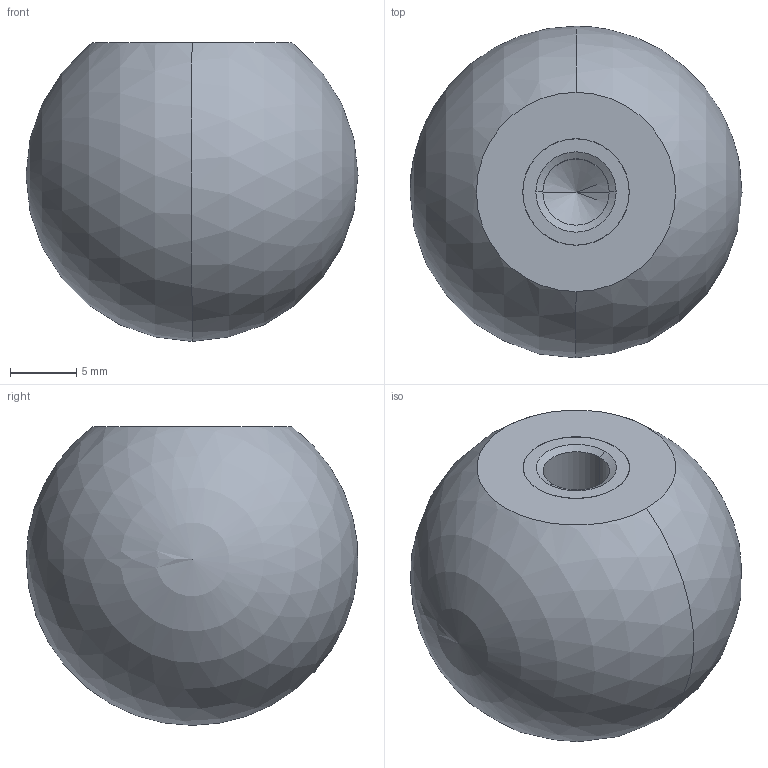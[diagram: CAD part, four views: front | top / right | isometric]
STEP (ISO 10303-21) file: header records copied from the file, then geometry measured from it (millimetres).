
FILE_DESCRIPTION (( 'STEP AP214' ), '1' );
FILE_NAME ('319-KU-25-M6-E.step', '2023-12-18T11:10:04', ( '' ), ( '' ), 'SwSTEP 2.0', 'SolidWorks 2022', '' );
FILE_SCHEMA (( 'AUTOMOTIVE_DESIGN' ));
Length unit declared in the file: millimetre
Products named in the file (1): 319-KU-25-M6-E
Bounding box: 25 x 24.97 x 22.5 mm (x, y, z)
Volume: 7705.4 mm3; surface area: 2132.8 mm2
Topology: 1 solids, 1 shells, 15 faces, 35 edges, 21 vertices
Faces by surface type: cylinder 6, cone 4, plane 3, sphere 2
Entity records: 495 total; most frequent: DIRECTION 78, CARTESIAN_POINT 62, ORIENTED_EDGE 56, AXIS2_PLACEMENT_3D 34, EDGE_CURVE 28, VERTEX_POINT 18, CIRCLE 18, EDGE_LOOP 18
